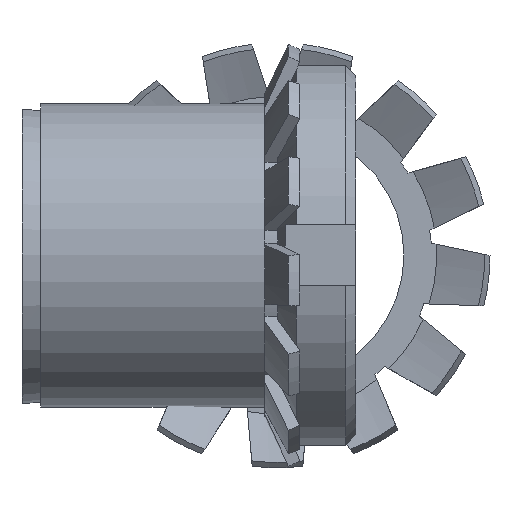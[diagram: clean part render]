
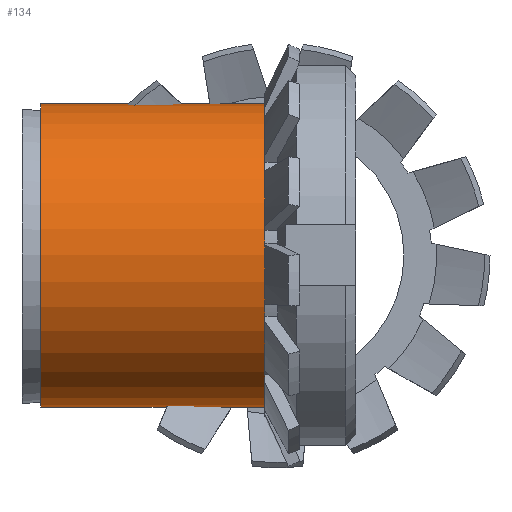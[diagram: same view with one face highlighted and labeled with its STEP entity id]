
A CAD part, left-side view. The second image highlights one B-rep face of the part: STEP entity #134.
In plain terms, the highlighted cylindrical face has radius 15 mm (diameter 30 mm), a full revolution.
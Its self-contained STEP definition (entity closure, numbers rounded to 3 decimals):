
#134 = ADVANCED_FACE( '', ( #263, #264 ), #265, .T. );
#263 = FACE_OUTER_BOUND( '', #393, .T. );
#264 = FACE_OUTER_BOUND( '', #394, .T. );
#265 = CYLINDRICAL_SURFACE( '', #395, 15. );
#393 = EDGE_LOOP( '', ( #769 ) );
#394 = EDGE_LOOP( '', ( #770 ) );
#395 = AXIS2_PLACEMENT_3D( '', #771, #772, #773 );
#769 = ORIENTED_EDGE( '', *, *, #1080, .F. );
#770 = ORIENTED_EDGE( '', *, *, #1051, .T. );
#771 = CARTESIAN_POINT( '', ( 0., -60., 0. ) );
#772 = DIRECTION( '', ( 0., 1., 0. ) );
#773 = DIRECTION( '', ( 0., 0., -1. ) );
#1051 = EDGE_CURVE( '', #1380, #1380, #1381, .T. );
#1080 = EDGE_CURVE( '', #1426, #1426, #1427, .T. );
#1380 = VERTEX_POINT( '', #2363 );
#1381 = CIRCLE( '', #2364, 15. );
#1426 = VERTEX_POINT( '', #2453 );
#1427 = CIRCLE( '', #2454, 15. );
#2363 = CARTESIAN_POINT( '', ( 0., 23.417, -15. ) );
#2364 = AXIS2_PLACEMENT_3D( '', #2850, #2851, #2852 );
#2453 = CARTESIAN_POINT( '', ( 0., 0., -15. ) );
#2454 = AXIS2_PLACEMENT_3D( '', #2882, #2883, #2884 );
#2850 = CARTESIAN_POINT( '', ( 0., 23.417, 0. ) );
#2851 = DIRECTION( '', ( 0., -1., 0. ) );
#2852 = DIRECTION( '', ( 0., 0., -1. ) );
#2882 = CARTESIAN_POINT( '', ( 0., 0., 0. ) );
#2883 = DIRECTION( '', ( 0., -1., 0. ) );
#2884 = DIRECTION( '', ( 0., 0., -1. ) );
